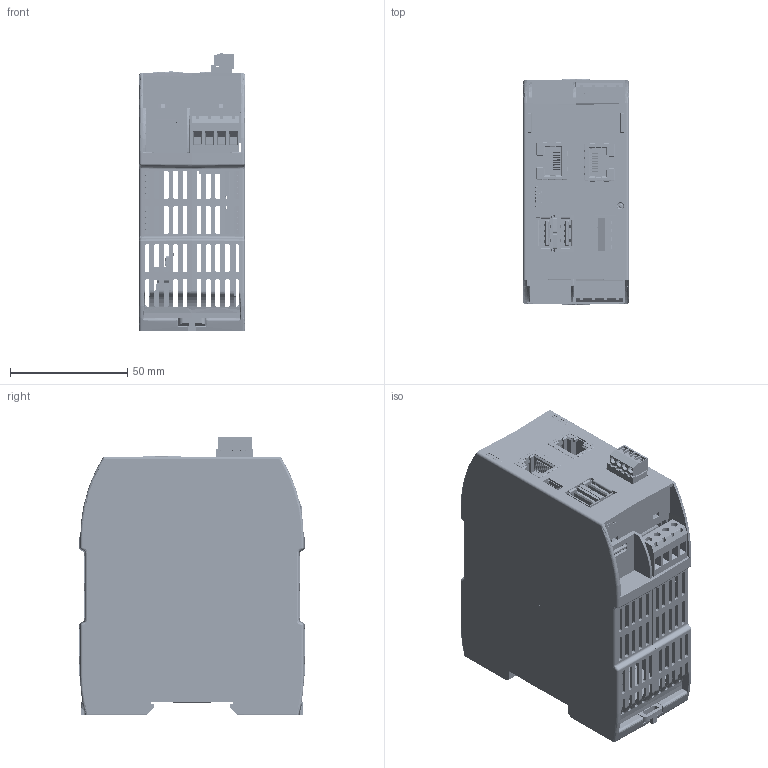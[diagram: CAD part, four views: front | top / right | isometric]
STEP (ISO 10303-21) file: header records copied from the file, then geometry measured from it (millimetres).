
FILE_DESCRIPTION(/* description */ (''),/* implementation_level */ '2;1');
FILE_NAME(/* name */ 'U:/Entwickler/EKrebs/Step_von_Ralf/Pi-Connect-Redesign v28.step',/* time_stamp */ '2021-02-16T12:01:16+01:00',/* author */ (''),/* organization */ (''),/* preprocessor_version */ 'ST-DEVELOPER v18.1',/* originating_system */ 'Autodesk Translation Framework v9.7.1.1290',/* authorisation */ '');
FILE_SCHEMA (('AUTOMOTIVE_DESIGN { 1 0 10303 214 3 1 1 }'));
Products named in the file (117): Pi-Connect-Redesign; 2025226_ASM; 2025224_ASM; 2009431_AF0; 2025235_ASM; 2025229_ASM; 2009431_AF1; 2001992; 2024287_ASM; 2008358_AF1; 2025258_ASM; 2025249_ASM; 2025245_AF0; 2008248; Compact-Core-BG0187R06 v1; Board; Open CASCADE STEP translator 6.8 1.1.1; X303; 629105136821_(rev1); Shielding; Insulator; Pin; X501; STEP-7498011211-rev1; Insulator_3; Insulator (1); Shielding (1); Insulator_2; Shielding_2; T500; 6143800432; Extruded (4); X301; 467650001; Open CASCADE STEP translator 6.8 1.26.1.1; Open CASCADE STEP translator 6.8 1.26.1.2; U301; 8837959008; Extruded (7); L403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
Assembly tree (189 placements, depth 5):
  Pi-Connect-Redesign
    2025226_ASM
      2025224_ASM
        2009431_AF0
      2001992
    2025235_ASM
      2025229_ASM
        2009431_AF1
      2001992
    2024287_ASM
      2008358_AF1
    2025258_ASM
      2025249_ASM
        2025245_AF0
        2008248  x2
    Compact-Core-BG0187R06 v1
      Board
        Open CASCADE STEP translator 6.8 1.1.1
      X303
        629105136821_(rev1)
          Shielding
          Insulator
          Pin  x5
      X501
        STEP-7498011211-rev1
          Insulator_3
          Insulator (1)
          Shielding (1)
          Insulator_2
          Shielding_2
      T500
        6143800432
          Extruded (4)
      X301
        467650001
          Open CASCADE STEP translator 6.8 1.26.1.1
          Open CASCADE STEP translator 6.8 1.26.1.2
      U301
        8837959008
          Extruded (7)
      L403
        CAPC1005X55N_EIA_0402
      LD600
        23-22B
      LD601
        23-22B
      LD602
        23-22B
      X300
        c-1612618-4-e2-3d
          Open CASCADE STEP translator 6.8 1.163.1.1
          Open CASCADE STEP translator 6.8 1.163.1.2
          Open CASCADE STEP translator 6.8 1.163.1.3
      X400
        Pilz16258
          2006666
      X500
        72309-8044BLFc
      DMC100
        6181753920
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Bounding box: 45 x 96 x 118.45 mm (x, y, z)
Volume: 100428.7 mm3; surface area: 159213.7 mm2
Topology: 159 solids, 159 shells, 20446 faces, 57688 edges, 37425 vertices
Faces by surface type: plane 14541, cylinder 4750, bspline 710, sphere 236, cone 140, torus 69
Full cylindrical faces by diameter (mm): 0.2 x1, 0.431 x2, 0.5 x2, 0.6 x2, 0.7 x2, 0.86 x1, 1 x29, 1.1 x19, 1.36 x1, 1.4 x8, 1.5 x4, 1.55 x4, 1.6 x3, 2 x2, 2.1 x10, 2.3 x4, 2.5 x9, 2.7 x8, 2.78 x4, 3 x19, 3.2 x4, 5 x1
Entity records: 600267 total; most frequent: CARTESIAN_POINT 135959, ORIENTED_EDGE 98430, DIRECTION 90144, EDGE_CURVE 49215, LINE 39214, VECTOR 39214, VERTEX_POINT 31813, AXIS2_PLACEMENT_3D 25465
